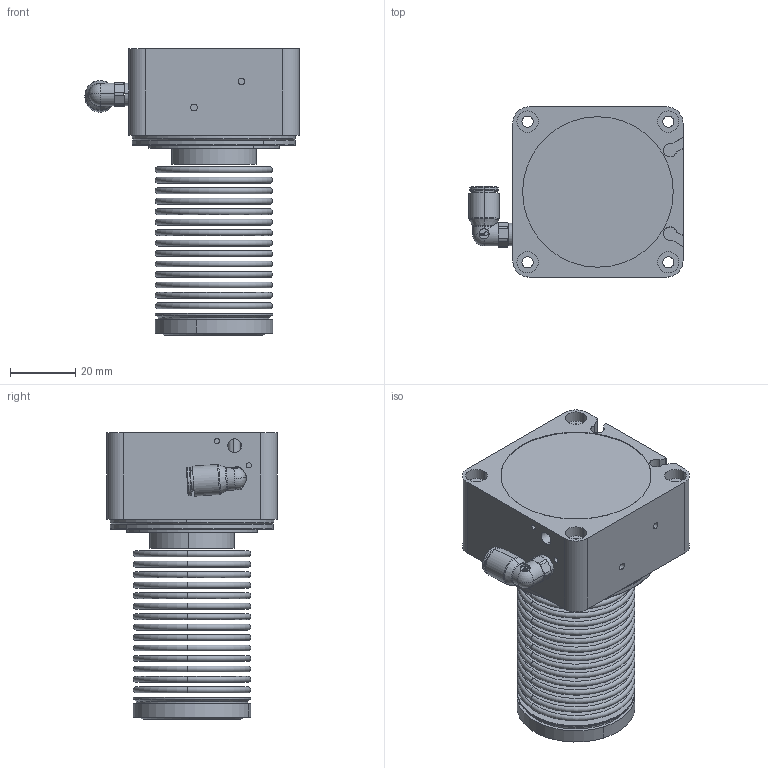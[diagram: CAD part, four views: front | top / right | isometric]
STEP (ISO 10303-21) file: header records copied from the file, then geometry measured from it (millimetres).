
FILE_DESCRIPTION (( 'STEP AP203' ), '1' );
FILE_NAME ('NAC-KF25-·§Ð¾.STEP', '2026-06-28T16:27:55', ( '' ), ( '' ), 'SwSTEP 2.0', 'SolidWorks 2025', '' );
FILE_SCHEMA (( 'CONFIG_CONTROL_DESIGN' ));
Length unit declared in the file: millimetre
Products named in the file (1): NAC-KF25-阀芯
Bounding box: 65.39 x 52 x 87.6 mm (x, y, z)
Surface area: 35036.9 mm2 (no closed solid volume)
Topology: 0 solids, 24 shells, 236 faces, 625 edges, 433 vertices
Faces by surface type: cylinder 87, plane 73, torus 56, cone 18, sphere 2
Entity records: 7807 total; most frequent: CARTESIAN_POINT 1594, DIRECTION 1462, ORIENTED_EDGE 1081, AXIS2_PLACEMENT_3D 647, EDGE_CURVE 624, VERTEX_POINT 433, CIRCLE 410, EDGE_LOOP 300
